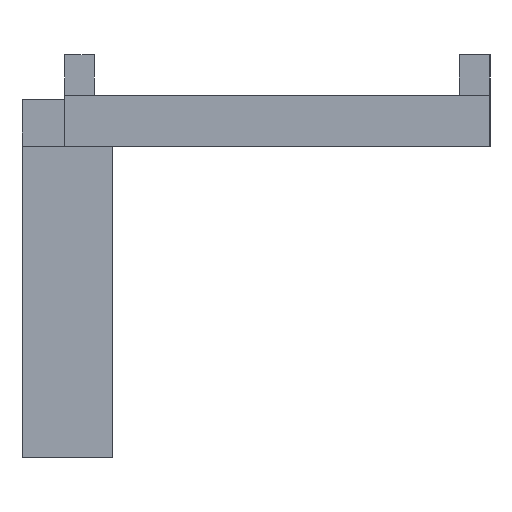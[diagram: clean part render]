
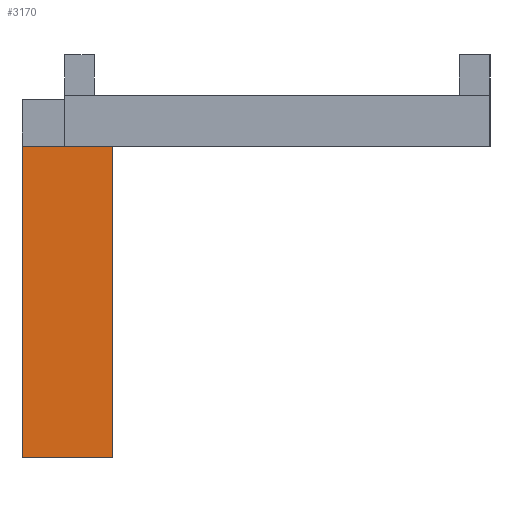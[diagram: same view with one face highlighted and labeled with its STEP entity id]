
A CAD part, left-side view. The second image highlights one B-rep face of the part: STEP entity #3170.
In plain terms, the highlighted planar face has unit normal (-1, 0, 0).
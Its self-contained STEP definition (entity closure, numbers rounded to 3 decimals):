
#72 = PLANE('',#73);
#73 = AXIS2_PLACEMENT_3D('',#74,#75,#76);
#74 = CARTESIAN_POINT('',(122.329,-86.23,138.6));
#75 = DIRECTION('',(-0.,-0.,-1.));
#76 = DIRECTION('',(-1.,0.,0.));
#1213 = VERTEX_POINT('',#1214);
#1214 = CARTESIAN_POINT('',(110.,-76.,138.6));
#1228 = PLANE('',#1229);
#1229 = AXIS2_PLACEMENT_3D('',#1230,#1231,#1232);
#1230 = CARTESIAN_POINT('',(123.,-76.,134.428));
#1231 = DIRECTION('',(0.,1.,0.));
#1232 = DIRECTION('',(0.,0.,1.));
#1240 = EDGE_CURVE('',#1213,#1241,#1243,.T.);
#1241 = VERTEX_POINT('',#1242);
#1242 = CARTESIAN_POINT('',(110.,-80.25,138.6));
#1243 = SURFACE_CURVE('',#1244,(#1248,#1255),.PCURVE_S1.);
#1244 = LINE('',#1245,#1246);
#1245 = CARTESIAN_POINT('',(110.,-80.625,138.6));
#1246 = VECTOR('',#1247,1.);
#1247 = DIRECTION('',(0.,-1.,0.));
#1248 = PCURVE('',#72,#1249);
#1249 = DEFINITIONAL_REPRESENTATION('',(#1250),#1254);
#1250 = LINE('',#1251,#1252);
#1251 = CARTESIAN_POINT('',(12.329,5.605));
#1252 = VECTOR('',#1253,1.);
#1253 = DIRECTION('',(0.,-1.));
#1254 = ( GEOMETRIC_REPRESENTATION_CONTEXT(2) 
PARAMETRIC_REPRESENTATION_CONTEXT() REPRESENTATION_CONTEXT('2D SPACE',''
  ) );
#1255 = PCURVE('',#1256,#1261);
#1256 = PLANE('',#1257);
#1257 = AXIS2_PLACEMENT_3D('',#1258,#1259,#1260);
#1258 = CARTESIAN_POINT('',(110.,-80.25,123.98));
#1259 = DIRECTION('',(1.,0.,0.));
#1260 = DIRECTION('',(0.,0.,1.));
#1261 = DEFINITIONAL_REPRESENTATION('',(#1262),#1266);
#1262 = LINE('',#1263,#1264);
#1263 = CARTESIAN_POINT('',(14.62,0.375));
#1264 = VECTOR('',#1265,1.);
#1265 = DIRECTION('',(0.,1.));
#1266 = ( GEOMETRIC_REPRESENTATION_CONTEXT(2) 
PARAMETRIC_REPRESENTATION_CONTEXT() REPRESENTATION_CONTEXT('2D SPACE',''
  ) );
#1284 = PLANE('',#1285);
#1285 = AXIS2_PLACEMENT_3D('',#1286,#1287,#1288);
#1286 = CARTESIAN_POINT('',(110.,-80.25,123.98));
#1287 = DIRECTION('',(0.,1.,0.));
#1288 = DIRECTION('',(0.,0.,1.));
#3123 = VERTEX_POINT('',#3124);
#3124 = CARTESIAN_POINT('',(110.,-76.,123.98));
#3138 = PLANE('',#3139);
#3139 = AXIS2_PLACEMENT_3D('',#3140,#3141,#3142);
#3140 = CARTESIAN_POINT('',(110.,-80.25,123.98));
#3141 = DIRECTION('',(0.,0.,1.));
#3142 = DIRECTION('',(1.,0.,0.));
#3150 = EDGE_CURVE('',#3123,#1213,#3151,.T.);
#3151 = SURFACE_CURVE('',#3152,(#3156,#3163),.PCURVE_S1.);
#3152 = LINE('',#3153,#3154);
#3153 = CARTESIAN_POINT('',(110.,-76.,123.98));
#3154 = VECTOR('',#3155,1.);
#3155 = DIRECTION('',(0.,0.,1.));
#3156 = PCURVE('',#1228,#3157);
#3157 = DEFINITIONAL_REPRESENTATION('',(#3158),#3162);
#3158 = LINE('',#3159,#3160);
#3159 = CARTESIAN_POINT('',(-10.448,-13.));
#3160 = VECTOR('',#3161,1.);
#3161 = DIRECTION('',(1.,0.));
#3162 = ( GEOMETRIC_REPRESENTATION_CONTEXT(2) 
PARAMETRIC_REPRESENTATION_CONTEXT() REPRESENTATION_CONTEXT('2D SPACE',''
  ) );
#3163 = PCURVE('',#1256,#3164);
#3164 = DEFINITIONAL_REPRESENTATION('',(#3165),#3169);
#3165 = LINE('',#3166,#3167);
#3166 = CARTESIAN_POINT('',(0.,-4.25));
#3167 = VECTOR('',#3168,1.);
#3168 = DIRECTION('',(1.,0.));
#3169 = ( GEOMETRIC_REPRESENTATION_CONTEXT(2) 
PARAMETRIC_REPRESENTATION_CONTEXT() REPRESENTATION_CONTEXT('2D SPACE',''
  ) );
#3170 = ADVANCED_FACE('',(#3171),#1256,.F.);
#3171 = FACE_BOUND('',#3172,.F.);
#3172 = EDGE_LOOP('',(#3173,#3196,#3217,#3218));
#3173 = ORIENTED_EDGE('',*,*,#3174,.F.);
#3174 = EDGE_CURVE('',#3175,#1241,#3177,.T.);
#3175 = VERTEX_POINT('',#3176);
#3176 = CARTESIAN_POINT('',(110.,-80.25,123.98));
#3177 = SURFACE_CURVE('',#3178,(#3182,#3189),.PCURVE_S1.);
#3178 = LINE('',#3179,#3180);
#3179 = CARTESIAN_POINT('',(110.,-80.25,123.98));
#3180 = VECTOR('',#3181,1.);
#3181 = DIRECTION('',(0.,0.,1.));
#3182 = PCURVE('',#1256,#3183);
#3183 = DEFINITIONAL_REPRESENTATION('',(#3184),#3188);
#3184 = LINE('',#3185,#3186);
#3185 = CARTESIAN_POINT('',(0.,0.));
#3186 = VECTOR('',#3187,1.);
#3187 = DIRECTION('',(1.,0.));
#3188 = ( GEOMETRIC_REPRESENTATION_CONTEXT(2) 
PARAMETRIC_REPRESENTATION_CONTEXT() REPRESENTATION_CONTEXT('2D SPACE',''
  ) );
#3189 = PCURVE('',#1284,#3190);
#3190 = DEFINITIONAL_REPRESENTATION('',(#3191),#3195);
#3191 = LINE('',#3192,#3193);
#3192 = CARTESIAN_POINT('',(0.,0.));
#3193 = VECTOR('',#3194,1.);
#3194 = DIRECTION('',(1.,0.));
#3195 = ( GEOMETRIC_REPRESENTATION_CONTEXT(2) 
PARAMETRIC_REPRESENTATION_CONTEXT() REPRESENTATION_CONTEXT('2D SPACE',''
  ) );
#3196 = ORIENTED_EDGE('',*,*,#3197,.T.);
#3197 = EDGE_CURVE('',#3175,#3123,#3198,.T.);
#3198 = SURFACE_CURVE('',#3199,(#3203,#3210),.PCURVE_S1.);
#3199 = LINE('',#3200,#3201);
#3200 = CARTESIAN_POINT('',(110.,-80.25,123.98));
#3201 = VECTOR('',#3202,1.);
#3202 = DIRECTION('',(0.,1.,0.));
#3203 = PCURVE('',#1256,#3204);
#3204 = DEFINITIONAL_REPRESENTATION('',(#3205),#3209);
#3205 = LINE('',#3206,#3207);
#3206 = CARTESIAN_POINT('',(0.,0.));
#3207 = VECTOR('',#3208,1.);
#3208 = DIRECTION('',(0.,-1.));
#3209 = ( GEOMETRIC_REPRESENTATION_CONTEXT(2) 
PARAMETRIC_REPRESENTATION_CONTEXT() REPRESENTATION_CONTEXT('2D SPACE',''
  ) );
#3210 = PCURVE('',#3138,#3211);
#3211 = DEFINITIONAL_REPRESENTATION('',(#3212),#3216);
#3212 = LINE('',#3213,#3214);
#3213 = CARTESIAN_POINT('',(0.,0.));
#3214 = VECTOR('',#3215,1.);
#3215 = DIRECTION('',(0.,1.));
#3216 = ( GEOMETRIC_REPRESENTATION_CONTEXT(2) 
PARAMETRIC_REPRESENTATION_CONTEXT() REPRESENTATION_CONTEXT('2D SPACE',''
  ) );
#3217 = ORIENTED_EDGE('',*,*,#3150,.T.);
#3218 = ORIENTED_EDGE('',*,*,#1240,.T.);
